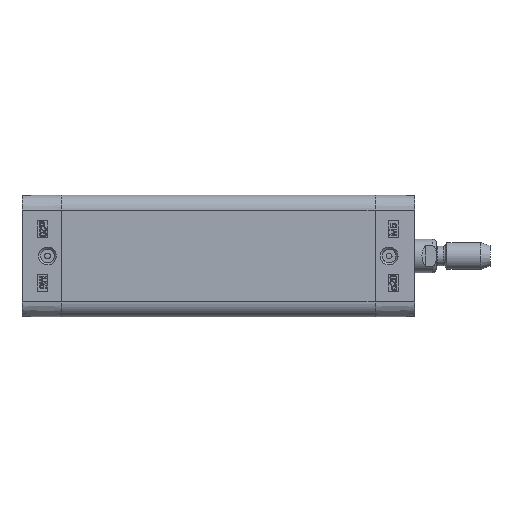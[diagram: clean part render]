
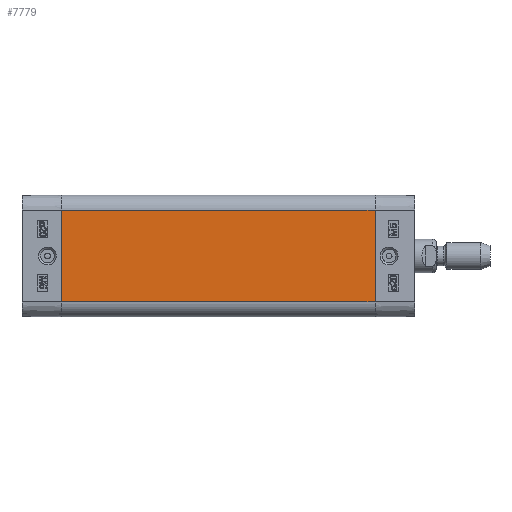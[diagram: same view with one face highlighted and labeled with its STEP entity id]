
A CAD part, left-side view. The second image highlights one B-rep face of the part: STEP entity #7779.
In plain terms, the highlighted planar face has unit normal (-1, 0, 0).
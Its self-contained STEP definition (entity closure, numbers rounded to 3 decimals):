
#6300=CARTESIAN_POINT('',(-18.15,-93.5,13.65));
#6301=VERTEX_POINT('',#6300);
#6308=CARTESIAN_POINT('',(-18.15,-93.5,-13.65));
#6309=VERTEX_POINT('',#6308);
#6310=CARTESIAN_POINT('',(-18.15,-93.5,-13.65));
#6311=DIRECTION('',(0.0,0.0,1.0));
#6312=VECTOR('',#6311,27.3);
#6313=LINE('',#6310,#6312);
#6314=EDGE_CURVE('',#6309,#6301,#6313,.T.);
#7737=CARTESIAN_POINT('',(-18.15,0.0,-13.65));
#7738=VERTEX_POINT('',#7737);
#7739=CARTESIAN_POINT('',(-18.15,0.0,-13.65));
#7740=DIRECTION('',(0.0,-1.0,0.0));
#7741=VECTOR('',#7740,93.5);
#7742=LINE('',#7739,#7741);
#7743=EDGE_CURVE('',#7738,#6309,#7742,.T.);
#7756=CARTESIAN_POINT('',(-18.15,0.0,-13.65));
#7757=DIRECTION('',(-1.0,0.0,0.0));
#7758=DIRECTION('',(0.0,0.0,1.0));
#7759=AXIS2_PLACEMENT_3D('',#7756,#7757,#7758);
#7760=PLANE('',#7759);
#7761=ORIENTED_EDGE('',*,*,#6314,.T.);
#7762=CARTESIAN_POINT('',(-18.15,0.0,13.65));
#7763=VERTEX_POINT('',#7762);
#7764=CARTESIAN_POINT('',(-18.15,0.0,13.65));
#7765=DIRECTION('',(0.0,-1.0,0.0));
#7766=VECTOR('',#7765,93.5);
#7767=LINE('',#7764,#7766);
#7768=EDGE_CURVE('',#7763,#6301,#7767,.T.);
#7769=ORIENTED_EDGE('',*,*,#7768,.F.);
#7770=CARTESIAN_POINT('',(-18.15,0.0,-13.65));
#7771=DIRECTION('',(0.0,0.0,1.0));
#7772=VECTOR('',#7771,27.3);
#7773=LINE('',#7770,#7772);
#7774=EDGE_CURVE('',#7738,#7763,#7773,.T.);
#7775=ORIENTED_EDGE('',*,*,#7774,.F.);
#7776=ORIENTED_EDGE('',*,*,#7743,.T.);
#7777=EDGE_LOOP('',(#7761,#7769,#7775,#7776));
#7778=FACE_OUTER_BOUND('',#7777,.T.);
#7779=ADVANCED_FACE('',(#7778),#7760,.T.);
